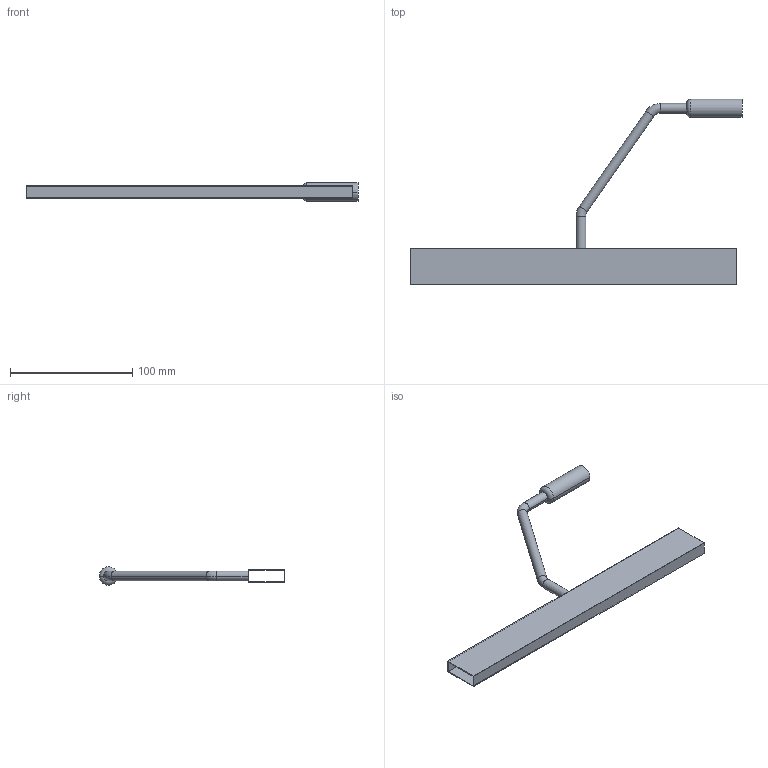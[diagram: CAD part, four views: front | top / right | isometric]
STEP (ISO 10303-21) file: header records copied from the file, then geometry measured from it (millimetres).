
FILE_DESCRIPTION (( 'STEP AP214' ), '1' );
FILE_NAME ('_DWD XP Rechteckreling mit Frontabstützung NL300.step', '2010-07-14T13:27:10', ( 'grass' ), ( '' ), 'SwSTEP 2.0', 'SolidWorks 2010', '' );
FILE_SCHEMA (( 'AUTOMOTIVE_DESIGN' ));
Length unit declared in the file: millimetre
Products named in the file (1): _DWD XP Rechteckreling mit Frontabstützung NL300
Bounding box: 271.6 x 151.9 x 15 mm (x, y, z)
Volume: 28486.7 mm3; surface area: 48390.6 mm2
Topology: 1 solids, 1 shells, 25 faces, 54 edges, 32 vertices
Faces by surface type: plane 11, cylinder 8, torus 6
Entity records: 712 total; most frequent: DIRECTION 128, CARTESIAN_POINT 112, ORIENTED_EDGE 108, EDGE_CURVE 54, AXIS2_PLACEMENT_3D 48, VECTOR 32, LINE 32, VERTEX_POINT 32
